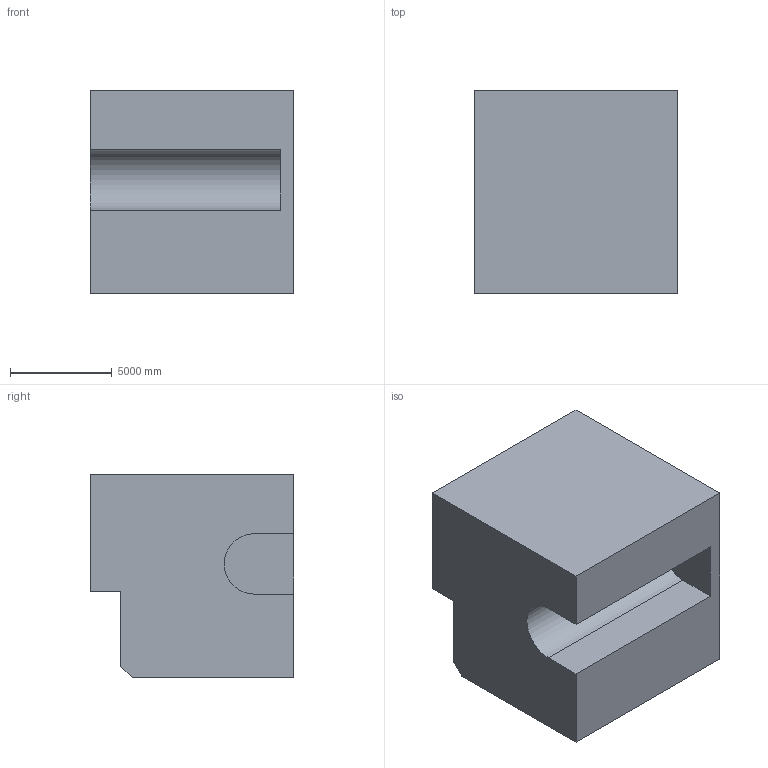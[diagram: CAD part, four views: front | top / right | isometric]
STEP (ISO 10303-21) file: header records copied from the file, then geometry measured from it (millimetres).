
FILE_DESCRIPTION (( 'STEP AP203' ), '1' );
FILE_NAME ('25.STEP', '2022-09-01T11:38:59', ( 'user' ), ( '' ), 'SwSTEP 2.0', 'SolidWorks 2021', '' );
FILE_SCHEMA (( 'CONFIG_CONTROL_DESIGN' ));
Length unit declared in the file: centimetre
Products named in the file (1): 25
Bounding box: 10000 x 10000 x 10000 mm (x, y, z)
Volume: 848536820283 mm3; surface area: 635650760.2 mm2
Topology: 1 solids, 1 shells, 13 faces, 33 edges, 22 vertices
Faces by surface type: plane 12, cylinder 1
Entity records: 466 total; most frequent: CARTESIAN_POINT 69, ORIENTED_EDGE 66, DIRECTION 63, EDGE_CURVE 33, VECTOR 31, LINE 31, VERTEX_POINT 22, AXIS2_PLACEMENT_3D 16
